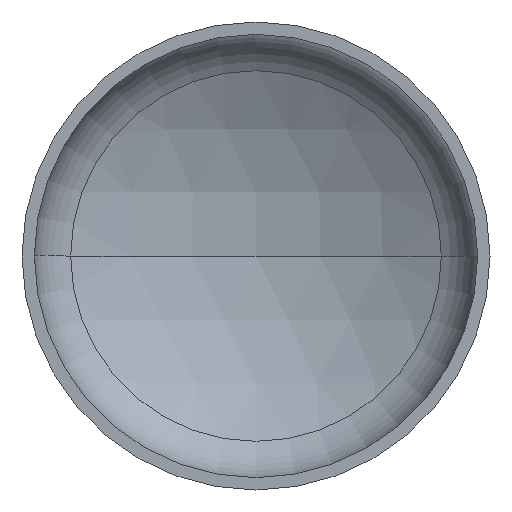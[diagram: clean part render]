
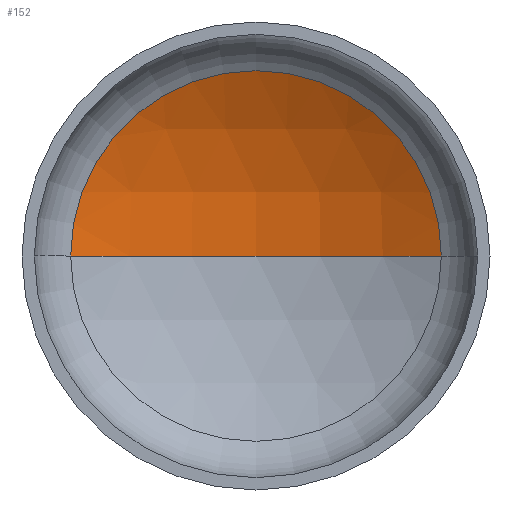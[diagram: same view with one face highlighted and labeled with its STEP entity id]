
A CAD part, front view. The second image highlights one B-rep face of the part: STEP entity #152.
In plain terms, the highlighted spherical face has radius 1120 mm.
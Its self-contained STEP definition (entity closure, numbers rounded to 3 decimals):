
#8 = EDGE_LOOP ( 'NONE', ( #40, #347, #132 ) ) ;
#20 = DIRECTION ( 'NONE',  ( 1., 0., 0. ) ) ;
#25 = DIRECTION ( 'NONE',  ( 0., 0., 1. ) ) ;
#32 = AXIS2_PLACEMENT_3D ( 'NONE', #161, #234, #228 ) ;
#40 = ORIENTED_EDGE ( 'NONE', *, *, #105, .F. ) ;
#45 = AXIS2_PLACEMENT_3D ( 'NONE', #155, #25, #20 ) ;
#47 = AXIS2_PLACEMENT_3D ( 'NONE', #204, #209, #370 ) ;
#52 = AXIS2_PLACEMENT_3D ( 'NONE', #221, #217, #218 ) ;
#98 = EDGE_CURVE ( 'NONE', #119, #227, #140, .T. ) ;
#99 = EDGE_CURVE ( 'NONE', #100, #119, #380, .T. ) ;
#100 = VERTEX_POINT ( 'NONE', #205 ) ;
#105 = EDGE_CURVE ( 'NONE', #100, #227, #265, .T. ) ;
#119 = VERTEX_POINT ( 'NONE', #282 ) ;
#132 = ORIENTED_EDGE ( 'NONE', *, *, #98, .T. ) ;
#140 = CIRCLE ( 'NONE', #52, 554.431 ) ;
#152 = ADVANCED_FACE ( 'NONE', ( #257 ), #320, .F. ) ;
#155 = CARTESIAN_POINT ( 'NONE',  ( 0., -666.334, 0. ) ) ;
#161 = CARTESIAN_POINT ( 'NONE',  ( 0., -666.334, 0. ) ) ;
#204 = CARTESIAN_POINT ( 'NONE',  ( 0., -666.334, 0. ) ) ;
#205 = CARTESIAN_POINT ( 'NONE',  ( 0., 453.666, 0. ) ) ;
#209 = DIRECTION ( 'NONE',  ( 0., 0., -1. ) ) ;
#217 = DIRECTION ( 'NONE',  ( 0., -1., 0. ) ) ;
#218 = DIRECTION ( 'NONE',  ( 1., 0., 0. ) ) ;
#221 = CARTESIAN_POINT ( 'NONE',  ( 0., 306.809, 0. ) ) ;
#227 = VERTEX_POINT ( 'NONE', #249 ) ;
#228 = DIRECTION ( 'NONE',  ( -1., 0., 0. ) ) ;
#234 = DIRECTION ( 'NONE',  ( 0., 0., -1. ) ) ;
#249 = CARTESIAN_POINT ( 'NONE',  ( -554.431, 306.809, 0. ) ) ;
#257 = FACE_OUTER_BOUND ( 'NONE', #8, .T. ) ;
#265 = CIRCLE ( 'NONE', #45, 1120. ) ;
#282 = CARTESIAN_POINT ( 'NONE',  ( 554.431, 306.809, 0. ) ) ;
#320 = SPHERICAL_SURFACE ( 'NONE', #32, 1120. ) ;
#347 = ORIENTED_EDGE ( 'NONE', *, *, #99, .T. ) ;
#370 = DIRECTION ( 'NONE',  ( -1., 0., 0. ) ) ;
#380 = CIRCLE ( 'NONE', #47, 1120. ) ;
